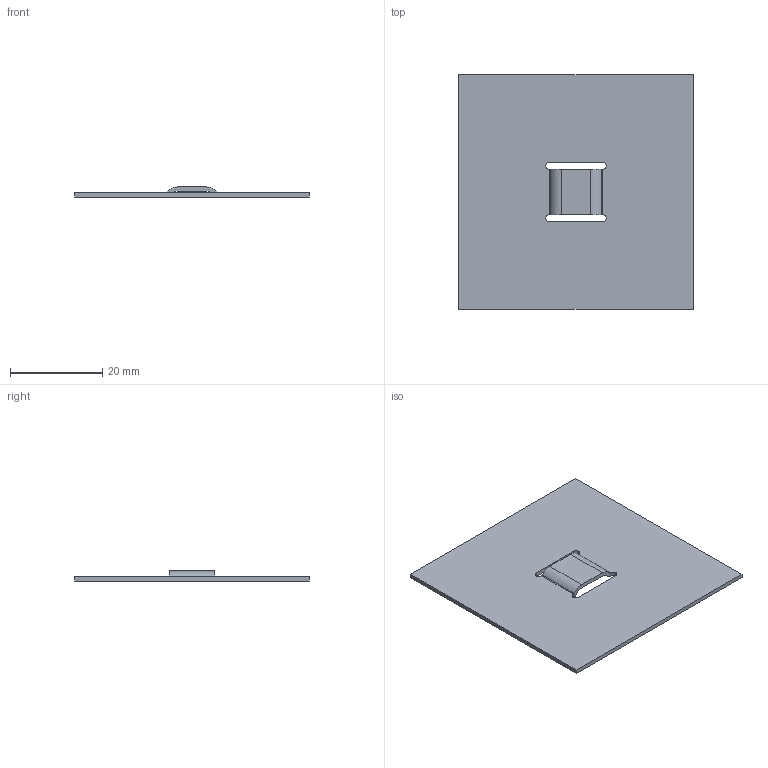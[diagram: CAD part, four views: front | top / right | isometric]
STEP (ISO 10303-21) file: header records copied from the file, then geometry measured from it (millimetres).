
FILE_DESCRIPTION((''),'1');
FILE_NAME('C:/Users/robertnolte/Desktop/WT#833852-70.stp','2012-03-27T22:46:15',(''),(''),'Spatial Interop R21 SP3','Kubotek KeyCreator 2011 V10.5.0 (24766)',' ');
FILE_SCHEMA(('CONFIG_CONTROL_DESIGN'));
Length unit declared in the file: inch
Products named in the file (1): 1
Bounding box: 50.8 x 50.8 x 2.18 mm (x, y, z)
Volume: 2330.4 mm3; surface area: 5335.7 mm2
Topology: 1 solids, 1 shells, 24 faces, 72 edges, 48 vertices
Faces by surface type: cylinder 12, plane 12
Entity records: 872 total; most frequent: DIRECTION 146, CARTESIAN_POINT 145, ORIENTED_EDGE 144, EDGE_CURVE 72, AXIS2_PLACEMENT_3D 49, VERTEX_POINT 48, LINE 48, VECTOR 48
